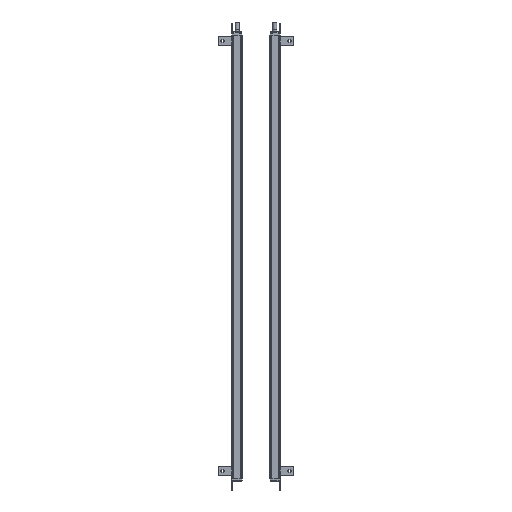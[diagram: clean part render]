
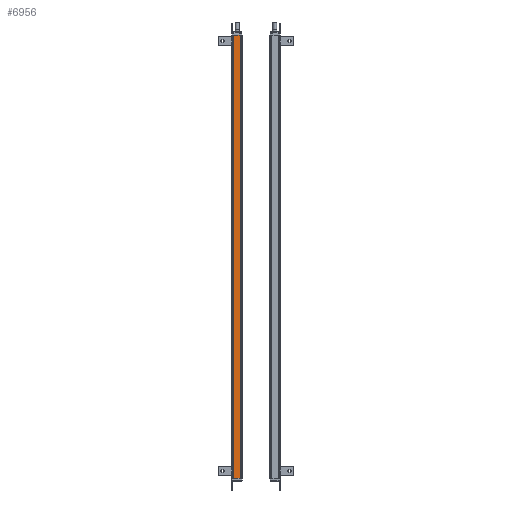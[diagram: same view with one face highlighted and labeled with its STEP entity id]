
A CAD part, left-side view. The second image highlights one B-rep face of the part: STEP entity #6956.
In plain terms, the highlighted planar face has unit normal (-1, 0, 0).
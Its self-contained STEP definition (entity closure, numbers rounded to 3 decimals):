
#953=FACE_OUTER_BOUND('',#9034,.T.);
#2188=LINE('',#33710,#4326);
#2290=LINE('',#34050,#4428);
#2291=LINE('',#34052,#4429);
#2292=LINE('',#34054,#4430);
#4326=VECTOR('',#26897,1.);
#4428=VECTOR('',#27185,1.);
#4429=VECTOR('',#27188,1.);
#4430=VECTOR('',#27189,1.);
#6178=PLANE('',#23723);
#6956=ADVANCED_FACE('',(#953),#6178,.T.);
#9034=EDGE_LOOP('',(#11681,#11682,#11683,#11684));
#11681=ORIENTED_EDGE('',*,*,#19828,.F.);
#11682=ORIENTED_EDGE('',*,*,#19829,.T.);
#11683=ORIENTED_EDGE('',*,*,#19830,.T.);
#11684=ORIENTED_EDGE('',*,*,#19658,.F.);
#17203=VERTEX_POINT('',#33709);
#17204=VERTEX_POINT('',#33711);
#17348=VERTEX_POINT('',#34049);
#17349=VERTEX_POINT('',#34053);
#19658=EDGE_CURVE('',#17203,#17204,#2188,.T.);
#19828=EDGE_CURVE('',#17348,#17203,#2290,.T.);
#19829=EDGE_CURVE('',#17348,#17349,#2291,.T.);
#19830=EDGE_CURVE('',#17349,#17204,#2292,.T.);
#23723=AXIS2_PLACEMENT_3D('',#34055,#27190,#27191);
#26897=DIRECTION('',(0.,-1.,0.));
#27185=DIRECTION('',(0.,0.,1.));
#27188=DIRECTION('',(0.,-1.,0.));
#27189=DIRECTION('',(0.,0.,1.));
#27190=DIRECTION('',(-1.,0.,0.));
#27191=DIRECTION('',(0.,-1.,0.));
#33709=CARTESIAN_POINT('',(233.846,104.141,31.645));
#33710=CARTESIAN_POINT('',(233.846,81.141,31.645));
#33711=CARTESIAN_POINT('',(233.846,81.141,31.645));
#34049=CARTESIAN_POINT('',(233.846,104.141,-1503.355));
#34050=CARTESIAN_POINT('',(233.846,104.141,-155.355));
#34052=CARTESIAN_POINT('',(233.846,81.141,-1503.355));
#34053=CARTESIAN_POINT('',(233.846,81.141,-1503.355));
#34054=CARTESIAN_POINT('',(233.846,81.141,-155.355));
#34055=CARTESIAN_POINT('',(233.846,81.141,-50.355));
